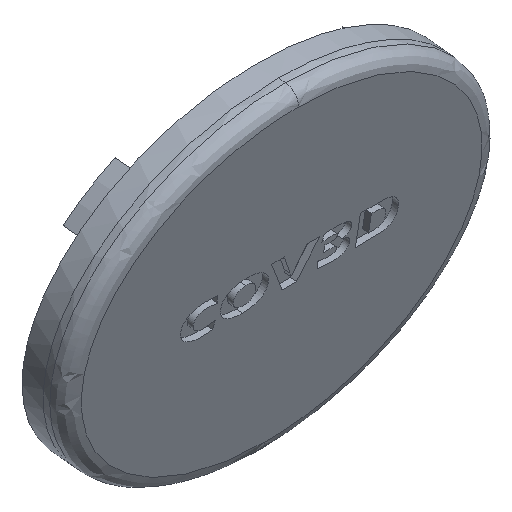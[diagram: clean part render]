
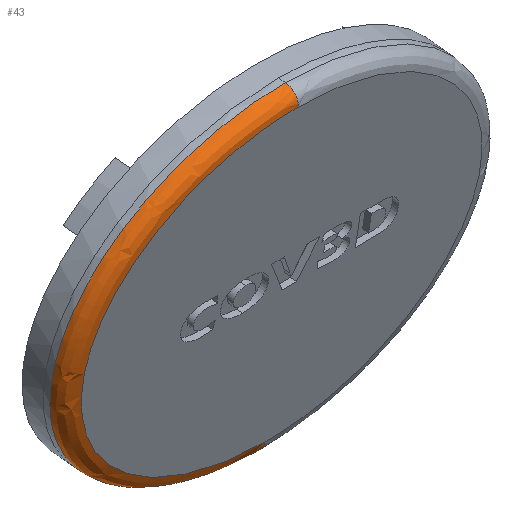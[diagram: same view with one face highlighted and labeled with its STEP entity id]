
A CAD part, isometric view. The second image highlights one B-rep face of the part: STEP entity #43.
In plain terms, the highlighted free-form (B-spline) face has degree [2, 2] with [3, 5] control points.
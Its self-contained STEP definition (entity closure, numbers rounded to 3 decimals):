
#43=ADVANCED_FACE('',(#110),#1043,.T.);
#110=FACE_OUTER_BOUND('',#186,.T.);
#186=EDGE_LOOP('',(#321,#322,#323,#324));
#321=ORIENTED_EDGE('',*,*,#577,.F.);
#322=ORIENTED_EDGE('',*,*,#578,.T.);
#323=ORIENTED_EDGE('',*,*,#579,.T.);
#324=ORIENTED_EDGE('',*,*,#713,.F.);
#577=EDGE_CURVE('',#888,#977,#727,.T.);
#578=EDGE_CURVE('',#888,#889,#728,.T.);
#579=EDGE_CURVE('',#889,#978,#729,.T.);
#713=EDGE_CURVE('',#977,#978,#746,.T.);
#727=(
BOUNDED_CURVE()
B_SPLINE_CURVE(2,(#2068,#2069,#2070,#2071,#2072),.UNSPECIFIED.,.F.,.F.)
B_SPLINE_CURVE_WITH_KNOTS((3,2,3),(0.,43.396,86.792),
 .UNSPECIFIED.)
CURVE()
GEOMETRIC_REPRESENTATION_ITEM()
RATIONAL_B_SPLINE_CURVE((1.,0.707,1.,0.707,1.))
REPRESENTATION_ITEM('')
);
#728=(
BOUNDED_CURVE()
B_SPLINE_CURVE(2,(#2073,#2074,#2075),.UNSPECIFIED.,.F.,.F.)
B_SPLINE_CURVE_WITH_KNOTS((3,3),(0.,3.727),.UNSPECIFIED.)
CURVE()
GEOMETRIC_REPRESENTATION_ITEM()
RATIONAL_B_SPLINE_CURVE((1.,0.707,1.))
REPRESENTATION_ITEM('')
);
#729=(
BOUNDED_CURVE()
B_SPLINE_CURVE(2,(#2076,#2077,#2078,#2079,#2080),.UNSPECIFIED.,.F.,.F.)
B_SPLINE_CURVE_WITH_KNOTS((3,2,3),(0.,43.396,86.792),
 .UNSPECIFIED.)
CURVE()
GEOMETRIC_REPRESENTATION_ITEM()
RATIONAL_B_SPLINE_CURVE((1.,0.707,1.,0.707,1.))
REPRESENTATION_ITEM('')
);
#746=(
BOUNDED_CURVE()
B_SPLINE_CURVE(2,(#2816,#2817,#2818),.UNSPECIFIED.,.F.,.F.)
B_SPLINE_CURVE_WITH_KNOTS((3,3),(0.,3.727),.UNSPECIFIED.)
CURVE()
GEOMETRIC_REPRESENTATION_ITEM()
RATIONAL_B_SPLINE_CURVE((1.,0.707,1.))
REPRESENTATION_ITEM('')
);
#888=VERTEX_POINT('',#1920);
#889=VERTEX_POINT('',#1921);
#977=VERTEX_POINT('',#2009);
#978=VERTEX_POINT('',#2010);
#1043=(
BOUNDED_SURFACE()
B_SPLINE_SURFACE(2,2,((#1190,#1191,#1192,#1193,#1194),(#1195,#1196,#1197,
#1198,#1199),(#1200,#1201,#1202,#1203,#1204)),.UNSPECIFIED.,.F.,.F.,.F.)
B_SPLINE_SURFACE_WITH_KNOTS((3,3),(3,2,3),(0.,3.727),(0.,43.396,
86.792),.UNSPECIFIED.)
GEOMETRIC_REPRESENTATION_ITEM()
RATIONAL_B_SPLINE_SURFACE(((1.,0.707,1.,0.707,1.),
(0.707,0.5,0.707,0.5,
0.707),(1.,0.707,1.,0.707,1.)))
REPRESENTATION_ITEM('')
SURFACE()
);
#1190=CARTESIAN_POINT('',(-0.114,-104.367,-19.512));
#1191=CARTESIAN_POINT('',(-35.872,-104.324,-19.507));
#1192=CARTESIAN_POINT('',(-35.872,-107.286,7.968));
#1193=CARTESIAN_POINT('',(-35.872,-110.248,35.442));
#1194=CARTESIAN_POINT('',(-0.114,-110.291,35.438));
#1195=CARTESIAN_POINT('',(-0.116,-106.726,-19.766));
#1196=CARTESIAN_POINT('',(-35.875,-106.683,-19.761));
#1197=CARTESIAN_POINT('',(-35.875,-109.645,7.713));
#1198=CARTESIAN_POINT('',(-35.875,-112.607,35.188));
#1199=CARTESIAN_POINT('',(-0.116,-112.651,35.183));
#1200=CARTESIAN_POINT('',(-0.116,-106.96,-17.593));
#1201=CARTESIAN_POINT('',(-33.047,-106.921,-17.588));
#1202=CARTESIAN_POINT('',(-33.047,-109.649,7.713));
#1203=CARTESIAN_POINT('',(-33.047,-112.377,33.014));
#1204=CARTESIAN_POINT('',(-0.116,-112.416,33.01));
#1920=CARTESIAN_POINT('',(-0.114,-104.367,-19.512));
#1921=CARTESIAN_POINT('',(-0.116,-106.96,-17.593));
#2009=CARTESIAN_POINT('',(-0.114,-110.291,35.438));
#2010=CARTESIAN_POINT('',(-0.116,-112.416,33.01));
#2068=CARTESIAN_POINT('',(-0.114,-104.367,-19.512));
#2069=CARTESIAN_POINT('',(-35.872,-104.324,-19.507));
#2070=CARTESIAN_POINT('',(-35.872,-107.286,7.968));
#2071=CARTESIAN_POINT('',(-35.872,-110.248,35.442));
#2072=CARTESIAN_POINT('',(-0.114,-110.291,35.438));
#2073=CARTESIAN_POINT('',(-0.114,-104.367,-19.512));
#2074=CARTESIAN_POINT('',(-0.116,-106.726,-19.766));
#2075=CARTESIAN_POINT('',(-0.116,-106.96,-17.593));
#2076=CARTESIAN_POINT('',(-0.116,-106.96,-17.593));
#2077=CARTESIAN_POINT('',(-33.047,-106.921,-17.588));
#2078=CARTESIAN_POINT('',(-33.047,-109.649,7.713));
#2079=CARTESIAN_POINT('',(-33.047,-112.377,33.014));
#2080=CARTESIAN_POINT('',(-0.116,-112.416,33.01));
#2816=CARTESIAN_POINT('',(-0.114,-110.291,35.438));
#2817=CARTESIAN_POINT('',(-0.116,-112.651,35.183));
#2818=CARTESIAN_POINT('',(-0.116,-112.416,33.01));
